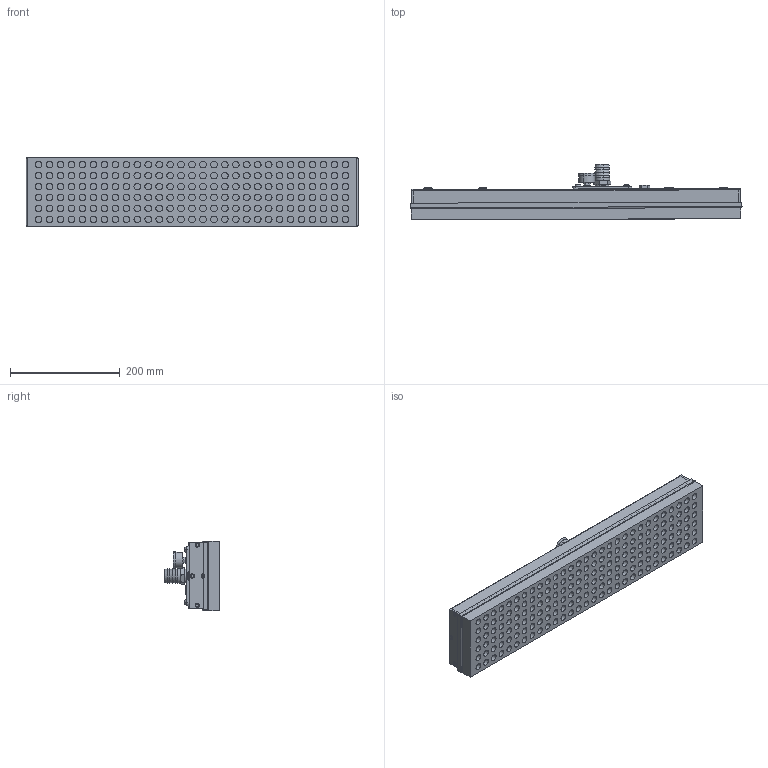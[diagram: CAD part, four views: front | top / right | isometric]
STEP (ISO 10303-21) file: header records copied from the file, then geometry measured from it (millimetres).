
FILE_DESCRIPTION (( 'STEP AP214' ), '1' );
FILE_NAME ('3-9-15418.STEP', '2012-08-31T07:55:06', ( 'cad' ), ( 'Microsoft' ), 'SwSTEP 2.0', 'SolidWorks 2012', '' );
FILE_SCHEMA (( 'AUTOMOTIVE_DESIGN' ));
Length unit declared in the file: millimetre
Products named in the file (1): 3-9-15418
Bounding box: 606.02 x 100.92 x 126 mm (x, y, z)
Volume: 3739443.3 mm3; surface area: 415048.6 mm2
Topology: 1 solids, 1 shells, 839 faces, 1762 edges, 1144 vertices
Faces by surface type: cylinder 438, plane 317, cone 34, torus 24, bspline 14, sphere 12
Entity records: 30740 total; most frequent: CARTESIAN_POINT 4628, DIRECTION 4362, ORIENTED_EDGE 3524, AXIS2_PLACEMENT_3D 1846, EDGE_CURVE 1762, VERTEX_POINT 1144, EDGE_LOOP 1058, CIRCLE 1020
